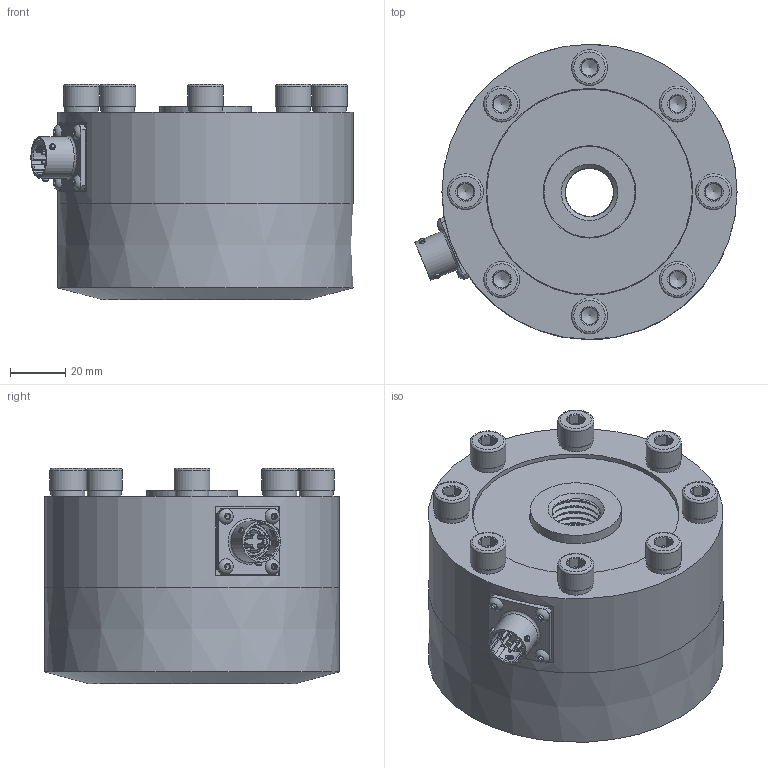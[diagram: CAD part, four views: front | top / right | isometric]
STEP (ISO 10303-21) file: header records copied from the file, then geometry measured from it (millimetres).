
FILE_DESCRIPTION(/* description */ (''),/* implementation_level */ '2;1');
FILE_NAME(/* name */ 'I:/New Datasheets/STEP Models/Pending models/DSCC Size 1 with base 5kN to 50kN.step',/* time_stamp */ '2019-06-27T14:17:59+01:00',/* author */ (''),/* organization */ (''),/* preprocessor_version */ 'ST-DEVELOPER v18',/* originating_system */ 'Autodesk Translation Framework v8.2.0.1029',/* authorisation */ '');
FILE_SCHEMA (('AUTOMOTIVE_DESIGN { 1 0 10303 214 3 1 1 }'));
Length unit declared in the file: millimetre
Products named in the file (2): DSCC Size 1 with base; DSCC 5kN to 50kN
Assembly tree (1 placements, depth 2):
  DSCC Size 1 with base
    DSCC 5kN to 50kN
Bounding box: 116.79 x 107 x 78 mm (x, y, z)
Volume: 569792.9 mm3; surface area: 88992.6 mm2
Topology: 9 solids, 24 shells, 908 faces, 2425 edges, 1612 vertices
Faces by surface type: plane 412, cylinder 227, cone 120, bspline 83, torus 46, sphere 20
Full cylindrical faces by diameter (mm): 1 x3, 1.009 x6, 1.165 x6, 1.2 x6, 1.4 x6, 1.52 x3, 1.6 x3, 2 x12, 2.03 x3, 2.2 x12, 2.529 x3, 3 x5, 3.2 x4, 6.779 x8, 8 x8, 8.5 x8, 10.25 x2, 10.9 x1, 11.05 x1, 11.35 x1, 12.55 x1, 13 x8, 13.85 x1, 13.9 x1, 14 x1, 14.95 x1, 15 x1, 17.519 x26, 20.293 x27, 33 x2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
Entity records: 37998 total; most frequent: CARTESIAN_POINT 15636, ORIENTED_EDGE 4804, DIRECTION 4440, EDGE_CURVE 2402, AXIS2_PLACEMENT_3D 1667, VERTEX_POINT 1612, LINE 1106, VECTOR 1106
